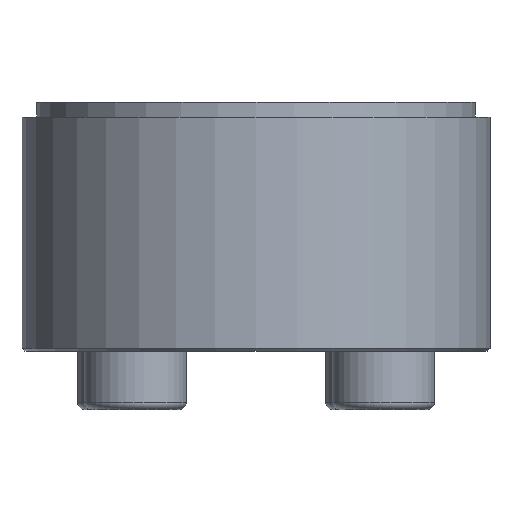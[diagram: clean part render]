
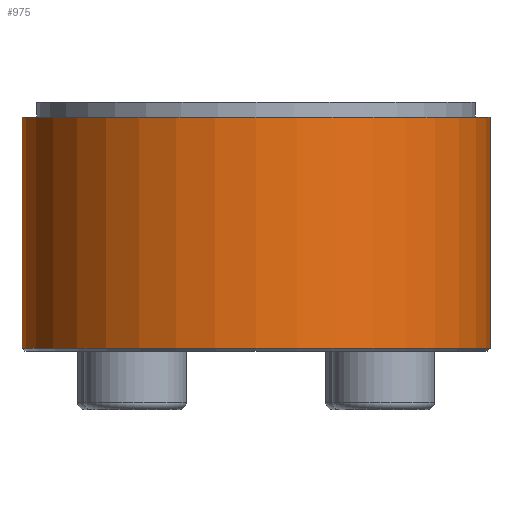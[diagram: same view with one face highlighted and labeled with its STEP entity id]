
A CAD part, front view. The second image highlights one B-rep face of the part: STEP entity #975.
In plain terms, the highlighted cylindrical face has radius 16 mm (diameter 32 mm), a partial arc.
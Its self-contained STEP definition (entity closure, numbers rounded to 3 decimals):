
#19 = VECTOR ( 'NONE', #1775, 1000. ) ;
#35 = DIRECTION ( 'NONE',  ( -1., 0., 0. ) ) ;
#91 = ORIENTED_EDGE ( 'NONE', *, *, #779, .F. ) ;
#93 = CARTESIAN_POINT ( 'NONE',  ( -16., 0., 0. ) ) ;
#98 = ORIENTED_EDGE ( 'NONE', *, *, #160, .T. ) ;
#160 = EDGE_CURVE ( 'NONE', #1407, #1234, #1101, .T. ) ;
#243 = VERTEX_POINT ( 'NONE', #918 ) ;
#244 = AXIS2_PLACEMENT_3D ( 'NONE', #1433, #1050, #1453 ) ;
#343 = VECTOR ( 'NONE', #1060, 1000. ) ;
#364 = CARTESIAN_POINT ( 'NONE',  ( 16., 0., -8.3 ) ) ;
#468 = CIRCLE ( 'NONE', #244, 16. ) ;
#569 = FACE_OUTER_BOUND ( 'NONE', #1281, .T. ) ;
#628 = EDGE_CURVE ( 'NONE', #243, #1407, #1187, .T. ) ;
#659 = CARTESIAN_POINT ( 'NONE',  ( 16., 0., 0. ) ) ;
#728 = VERTEX_POINT ( 'NONE', #940 ) ;
#732 = DIRECTION ( 'NONE',  ( 0., 0., -1. ) ) ;
#779 = EDGE_CURVE ( 'NONE', #728, #1234, #904, .T. ) ;
#904 = LINE ( 'NONE', #659, #19 ) ;
#907 = CARTESIAN_POINT ( 'NONE',  ( 0., 0., -8.3 ) ) ;
#918 = CARTESIAN_POINT ( 'NONE',  ( -16., 0., 7.5 ) ) ;
#940 = CARTESIAN_POINT ( 'NONE',  ( 16., 0., 7.5 ) ) ;
#975 = ADVANCED_FACE ( 'NONE', ( #569 ), #1588, .T. ) ;
#978 = CARTESIAN_POINT ( 'NONE',  ( -16., 0., -8.3 ) ) ;
#1021 = ORIENTED_EDGE ( 'NONE', *, *, #628, .T. ) ;
#1047 = DIRECTION ( 'NONE',  ( 0., 0., 1. ) ) ;
#1050 = DIRECTION ( 'NONE',  ( 0., 0., -1. ) ) ;
#1060 = DIRECTION ( 'NONE',  ( 0., 0., -1. ) ) ;
#1101 = CIRCLE ( 'NONE', #1708, 16. ) ;
#1131 = EDGE_CURVE ( 'NONE', #728, #243, #468, .T. ) ;
#1187 = LINE ( 'NONE', #93, #343 ) ;
#1203 = AXIS2_PLACEMENT_3D ( 'NONE', #1687, #732, #35 ) ;
#1234 = VERTEX_POINT ( 'NONE', #364 ) ;
#1281 = EDGE_LOOP ( 'NONE', ( #91, #1342, #1021, #98 ) ) ;
#1342 = ORIENTED_EDGE ( 'NONE', *, *, #1131, .T. ) ;
#1407 = VERTEX_POINT ( 'NONE', #978 ) ;
#1433 = CARTESIAN_POINT ( 'NONE',  ( 0., 0., 7.5 ) ) ;
#1453 = DIRECTION ( 'NONE',  ( 1., 0., 0. ) ) ;
#1465 = DIRECTION ( 'NONE',  ( -1., 0., 0. ) ) ;
#1588 = CYLINDRICAL_SURFACE ( 'NONE', #1203, 16. ) ;
#1687 = CARTESIAN_POINT ( 'NONE',  ( 0., 0., 0. ) ) ;
#1708 = AXIS2_PLACEMENT_3D ( 'NONE', #907, #1047, #1465 ) ;
#1775 = DIRECTION ( 'NONE',  ( 0., 0., -1. ) ) ;
